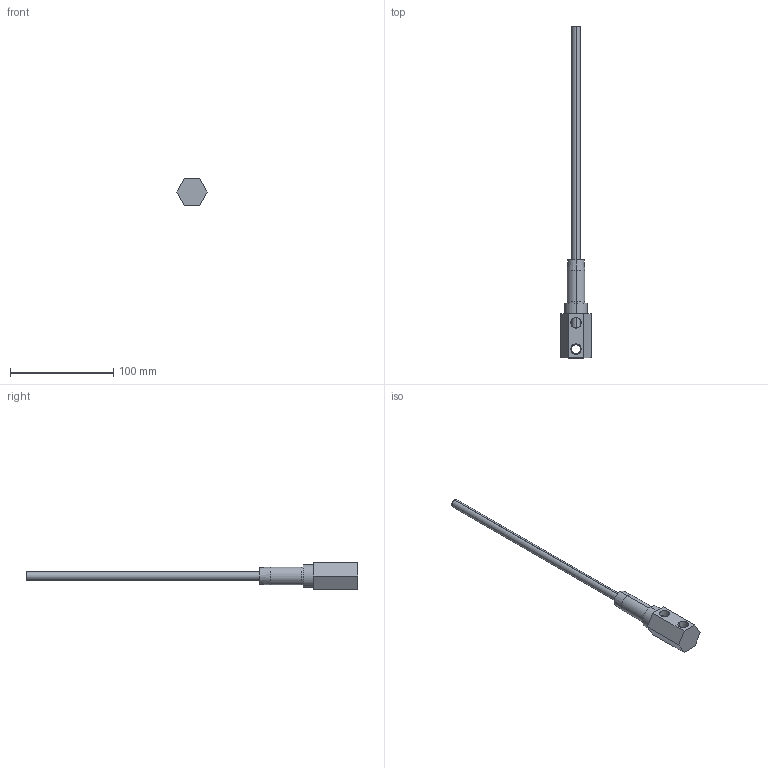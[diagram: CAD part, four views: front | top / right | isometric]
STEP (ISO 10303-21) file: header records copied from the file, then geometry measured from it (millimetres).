
FILE_DESCRIPTION (( 'STEP AP203' ), '1' );
FILE_NAME ('NC3818-HFT.step', '2022-01-27T21:06:02', ( 'Microsoft Corporation' ), ( 'MS' ), 'SwSTEP 2.0', 'SolidWorks 2019', '' );
FILE_SCHEMA (( 'CONFIG_CONTROL_DESIGN' ));
Length unit declared in the file: inch
Products named in the file (4): NC3818-HFT; HFT312L12; NCH3818-HFT; GPN37L2
Assembly tree (3 placements, depth 2):
  NC3818-HFT
    NCH3818-HFT
    GPN37L2
    HFT312L12
Bounding box: 29.33 x 321.25 x 25.4 mm (x, y, z)
Volume: 27698.3 mm3; surface area: 27350 mm2
Topology: 3 solids, 3 shells, 57 faces, 130 edges, 84 vertices
Faces by surface type: cylinder 22, plane 21, cone 14
Entity records: 2124 total; most frequent: CARTESIAN_POINT 365, DIRECTION 306, ORIENTED_EDGE 260, EDGE_CURVE 130, AXIS2_PLACEMENT_3D 125, VERTEX_POINT 84, EDGE_LOOP 72, CIRCLE 62
